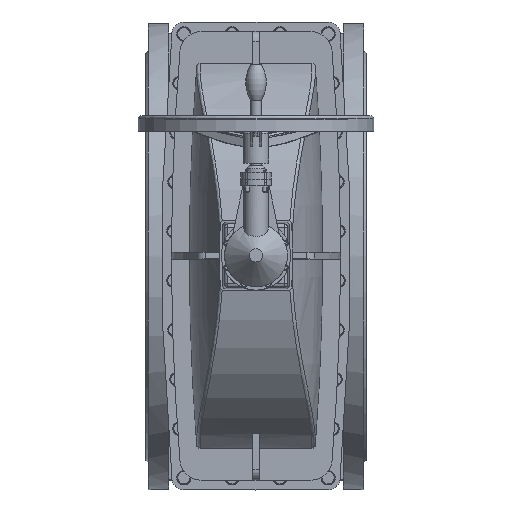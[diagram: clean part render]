
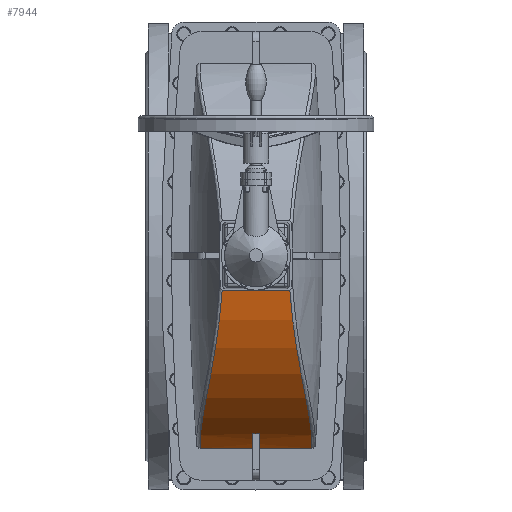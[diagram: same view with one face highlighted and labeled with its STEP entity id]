
A CAD part, top view. The second image highlights one B-rep face of the part: STEP entity #7944.
In plain terms, the highlighted cylindrical face has radius 402.667 mm (diameter 805.333 mm), a partial arc.
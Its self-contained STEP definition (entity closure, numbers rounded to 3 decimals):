
#7944=ADVANCED_FACE('',(#15845),#15847,.T.);
#15845=FACE_BOUND('',#15846,.T.);
#15846=EDGE_LOOP('',(#28681,#28682,#28683,#28684,#28685,#28686,#28687,#28688));
#15847=CYLINDRICAL_SURFACE('',#15848,402.667);
#15848=AXIS2_PLACEMENT_3D('',#15849,#15850,#15851);
#15849=CARTESIAN_POINT('',(0.,-131.005,-39.5));
#15850=DIRECTION('',(0.,1.,0.));
#15851=DIRECTION('',(-0.933,0.,0.36));
#28681=ORIENTED_EDGE('',*,*,#33149,.F.);
#28682=ORIENTED_EDGE('',*,*,#33150,.F.);
#28683=ORIENTED_EDGE('',*,*,#33151,.F.);
#28684=ORIENTED_EDGE('',*,*,#33152,.F.);
#28685=ORIENTED_EDGE('',*,*,#33153,.F.);
#28686=ORIENTED_EDGE('',*,*,#33154,.T.);
#28687=ORIENTED_EDGE('',*,*,#33155,.F.);
#28688=ORIENTED_EDGE('',*,*,#33156,.F.);
#33149=EDGE_CURVE('',#37303,#37304,#37305,.F.);
#33150=EDGE_CURVE('',#37306,#37303,#37307,.T.);
#33151=EDGE_CURVE('',#37308,#37306,#37309,.T.);
#33152=EDGE_CURVE('',#37310,#37308,#37311,.T.);
#33153=EDGE_CURVE('',#37312,#37310,#37313,.F.);
#33154=EDGE_CURVE('',#37312,#37314,#37315,.T.);
#33155=EDGE_CURVE('',#37316,#37314,#37317,.T.);
#33156=EDGE_CURVE('',#37304,#37316,#37318,.T.);
#37303=VERTEX_POINT('',#52641);
#37304=VERTEX_POINT('',#52642);
#37305=CIRCLE('',#52643,402.667);
#37306=VERTEX_POINT('',#52647);
#37307=LINE('',#52648,#52649);
#37308=VERTEX_POINT('',#52651);
#37309=CIRCLE('',#52652,402.667);
#37310=VERTEX_POINT('',#52656);
#37311=LINE('',#52657,#52658);
#37312=VERTEX_POINT('',#52660);
#37313=B_SPLINE_CURVE_WITH_KNOTS('',3,
(#52661,#52662,#52663,#52664,#52665,#52666,#52667,#52668,#52669,#52670,#52671,#52672,
#52673,#52674),
.UNSPECIFIED.,.F.,.F.,
(4,1,1,1,1,1,1,1,1,1,1,4),
(0.,0.098,0.184,0.264,0.352,0.451,
0.56,0.671,0.775,0.864,0.938,
1.),
.UNSPECIFIED.);
#37314=VERTEX_POINT('',#52675);
#37315=LINE('',#52676,#52677);
#37316=VERTEX_POINT('',#52679);
#37317=B_SPLINE_CURVE_WITH_KNOTS('',3,
(#52680,#52681,#52682,#52683,#52684,#52685,#52686,#52687,#52688,#52689,#52690,#52691,
#52692,#52693),
.UNSPECIFIED.,.F.,.F.,
(4,1,1,1,1,1,1,1,1,1,1,4),
(0.,0.098,0.184,0.264,0.352,0.451,
0.56,0.671,0.775,0.864,0.938,
1.),
.UNSPECIFIED.);
#37318=LINE('',#52694,#52695);
#52641=CARTESIAN_POINT('',(-346.675,6.583,165.333));
#52642=CARTESIAN_POINT('',(-375.718,6.583,105.333));
#52643=AXIS2_PLACEMENT_3D('',#52644,#52645,#52646);
#52644=CARTESIAN_POINT('',(0.,6.583,-39.5));
#52645=DIRECTION('',(0.,1.,0.));
#52646=DIRECTION('',(-0.933,0.,0.36));
#52647=CARTESIAN_POINT('',(-346.675,-6.583,165.333));
#52648=CARTESIAN_POINT('',(-346.675,-6.583,165.333));
#52649=VECTOR('',#52650,1.);
#52650=DIRECTION('',(0.,1.,0.));
#52651=CARTESIAN_POINT('',(-375.718,-6.583,105.333));
#52652=AXIS2_PLACEMENT_3D('',#52653,#52654,#52655);
#52653=CARTESIAN_POINT('',(0.,-6.583,-39.5));
#52654=DIRECTION('',(0.,1.,0.));
#52655=DIRECTION('',(-0.933,0.,0.36));
#52656=CARTESIAN_POINT('',(-375.718,-109.116,105.333));
#52657=CARTESIAN_POINT('',(-375.718,-109.116,105.333));
#52658=VECTOR('',#52659,1.);
#52659=DIRECTION('',(0.,1.,0.));
#52660=CARTESIAN_POINT('',(-67.731,-65.981,357.429));
#52661=CARTESIAN_POINT('',(-375.718,-109.116,105.333));
#52662=CARTESIAN_POINT('',(-370.815,-109.603,118.052));
#52663=CARTESIAN_POINT('',(-360.365,-109.589,141.533));
#52664=CARTESIAN_POINT('',(-342.224,-107.979,173.635));
#52665=CARTESIAN_POINT('',(-322.263,-105.121,202.767));
#52666=CARTESIAN_POINT('',(-298.729,-101.024,231.435));
#52667=CARTESIAN_POINT('',(-269.814,-95.486,260.441));
#52668=CARTESIAN_POINT('',(-235.423,-88.802,288.235));
#52669=CARTESIAN_POINT('',(-197.65,-81.891,312.264));
#52670=CARTESIAN_POINT('',(-159.769,-75.81,330.843));
#52671=CARTESIAN_POINT('',(-125.034,-71.192,343.768));
#52672=CARTESIAN_POINT('',(-94.814,-68.039,352.188));
#52673=CARTESIAN_POINT('',(-76.275,-66.529,355.971));
#52674=CARTESIAN_POINT('',(-67.731,-65.981,357.429));
#52675=CARTESIAN_POINT('',(-67.731,65.981,357.429));
#52676=CARTESIAN_POINT('',(-67.731,-65.981,357.429));
#52677=VECTOR('',#52678,1.);
#52678=DIRECTION('',(0.,1.,0.));
#52679=CARTESIAN_POINT('',(-375.718,109.116,105.333));
#52680=CARTESIAN_POINT('',(-375.718,109.116,105.333));
#52681=CARTESIAN_POINT('',(-370.815,109.603,118.052));
#52682=CARTESIAN_POINT('',(-360.365,109.589,141.533));
#52683=CARTESIAN_POINT('',(-342.224,107.979,173.635));
#52684=CARTESIAN_POINT('',(-322.263,105.121,202.767));
#52685=CARTESIAN_POINT('',(-298.729,101.024,231.435));
#52686=CARTESIAN_POINT('',(-269.814,95.486,260.441));
#52687=CARTESIAN_POINT('',(-235.423,88.802,288.235));
#52688=CARTESIAN_POINT('',(-197.65,81.891,312.264));
#52689=CARTESIAN_POINT('',(-159.769,75.81,330.843));
#52690=CARTESIAN_POINT('',(-125.034,71.192,343.768));
#52691=CARTESIAN_POINT('',(-94.814,68.039,352.188));
#52692=CARTESIAN_POINT('',(-76.275,66.529,355.971));
#52693=CARTESIAN_POINT('',(-67.731,65.981,357.429));
#52694=CARTESIAN_POINT('',(-375.718,6.583,105.333));
#52695=VECTOR('',#52696,1.);
#52696=DIRECTION('',(0.,1.,0.));
